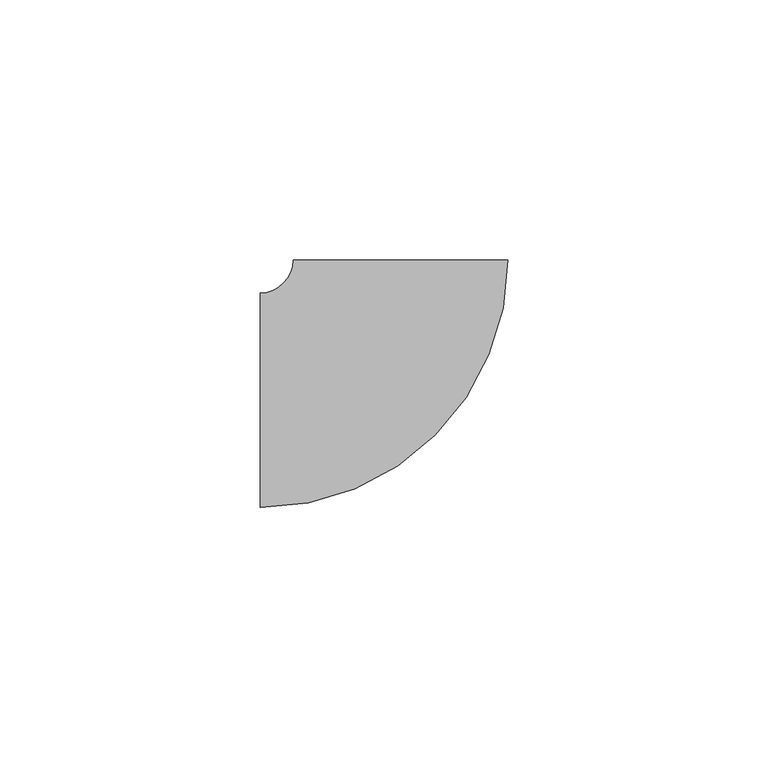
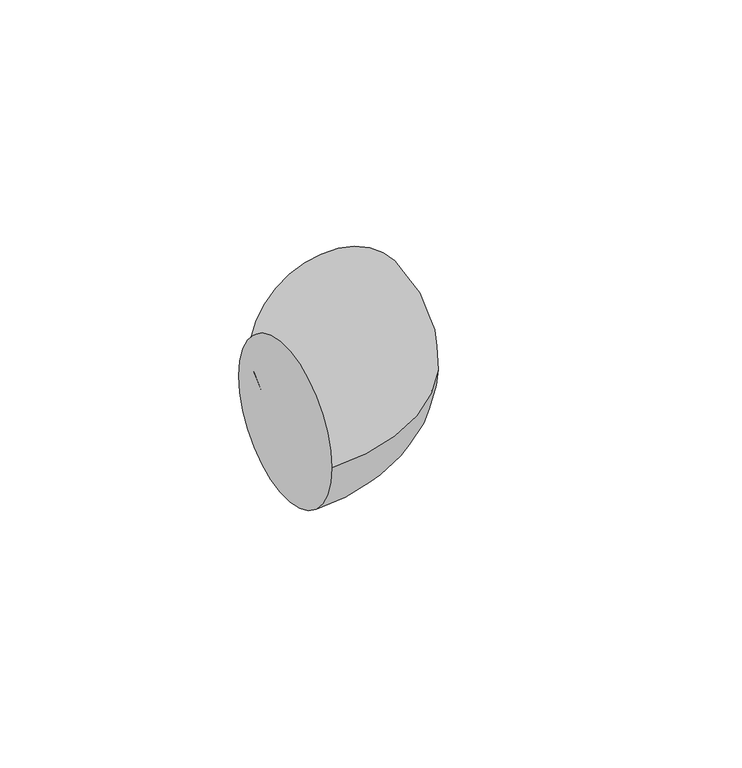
"""IFC4 building model written with IfcOpenShell, lengths in millimetres: pipe fitting geometry, M_Codo - Genérico : Estándar."""

from ifc_helpers import new_model, si_unit, point, frame, origin, place, context, project, spatial, circle_curve, ellipse_curve, trimmed, source, transform, mapped, element, save
from ifc_brep_helpers import plane_surface, revolved_surface, advanced_brep


def pipe_fitting_0776bb1a(model_context):
    return source(origin(), model_context, "Body", "AdvancedBrep", [
        advanced_brep(
        [(-26.9880629, -20.6375, 0.0), (-26.9880629, 20.6375, 0.0), (20.6369371, 26.9884934, 0.0), (-20.6380629, 26.9876324, 0.0)],
        [
            (0, 1, circle_curve(frame((-26.9880629, 0.0, 0.0), z_axis=(-1.0, 0.0, 0.0), x_axis=(0.0, 1.0, 0.0)), 20.6375)),
            (1, 0, circle_curve(frame((-26.9880629, 0.0, 0.0), z_axis=(-1.0, 0.0, 0.0), x_axis=(0.0, 1.0, 0.0)), 20.6375)),
            (2, 3, circle_curve(frame((-0.0005629, 26.9880629, 0.0), z_axis=(-2.0858189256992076e-05, 0.999999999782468, 0.0), x_axis=(-0.999999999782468, -2.0858189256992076e-05, 0.0)), 20.6375)),
            (3, 2, circle_curve(frame((-0.0005629, 26.9880629, 0.0), z_axis=(-2.0858189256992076e-05, 0.999999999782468, 0.0), x_axis=(-0.999999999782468, -2.0858189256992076e-05, 0.0)), 20.6375)),
            (3, 1, circle_curve(frame((-26.9880629, 26.9875, 0.0), z_axis=(0.0, 0.0, -1.0), x_axis=(0.0, -1.0, 0.0)), 6.35)),
            (0, 2, circle_curve(frame((-26.9880629, 26.9875, 0.0), z_axis=(0.0, 0.0, 1.0), x_axis=(0.0, -1.0, 0.0)), 47.625)),
        ],
        [
            plane_surface(frame((-26.9880629, 0.0, 0.0), z_axis=(-1.0, 0.0, 0.0), x_axis=(0.0, 0.0, 1.0))),
            plane_surface(frame((-0.0005629, 26.9880629, 0.0), z_axis=(-2.0858189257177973e-05, 0.999999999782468, 0.0), x_axis=(0.0, 0.0, 1.0))),
            revolved_surface(trimmed(ellipse_curve(frame((-26.9880629, 0.0, 0.0), z_axis=(-1.0, 0.0, 0.0), x_axis=(0.0, 1.0, 0.0)), 20.6375, 20.6375), [point((-26.9880629, -20.6375, 0.0))], [point((-26.9880629, 20.6375, 0.0))], True, "CARTESIAN"), (-26.9880629, 26.9875, 0.0), (0.0, 0.0, 1.0)),
            revolved_surface(trimmed(ellipse_curve(frame((-26.9880629, 0.0, 0.0), z_axis=(-1.0, 0.0, 0.0), x_axis=(0.0, 1.0, 0.0)), 20.6375, 20.6375), [point((-26.9880629, 20.6375, 0.0))], [point((-26.9880629, -20.6375, 0.0))], True, "CARTESIAN"), (-26.9880629, 26.9875, 0.0), (0.0, 0.0, 1.0)),
        ],
        [
            (0, [[1, 2]]),
            (1, [[3, 4]]),
            (2, [[5, -1, 6, -4]]),
            (3, [[-6, -2, -5, -3]]),
        ],
    ),
    ])


if __name__ == "__main__":
    model = new_model("IFC4")
    model_context = context("Model", 3, world=origin())
    ifc_project = project(units=[si_unit("LENGTHUNIT", "METRE", prefix="MILLI")], contexts=[model_context])
    site = spatial("IfcSite", under=ifc_project)
    building = spatial("IfcBuilding", under=site)
    placement = place(None, origin())
    pipe_fitting_shape = pipe_fitting_0776bb1a(model_context)
    element("IfcPipeFitting", 1, ObjectType="M_Codo - Genérico : Estándar", at=placement, inside=building, context=model_context, shape_type="MappedRepresentation", body=[
        mapped(pipe_fitting_shape, transform((0.0, 0.0, 0.0), x_axis=(1.0, 0.0, 0.0), y_axis=(0.0, 1.0, 0.0), z_axis=(0.0, 0.0, 1.0))),
    ])
    save(model, "model.ifc")
